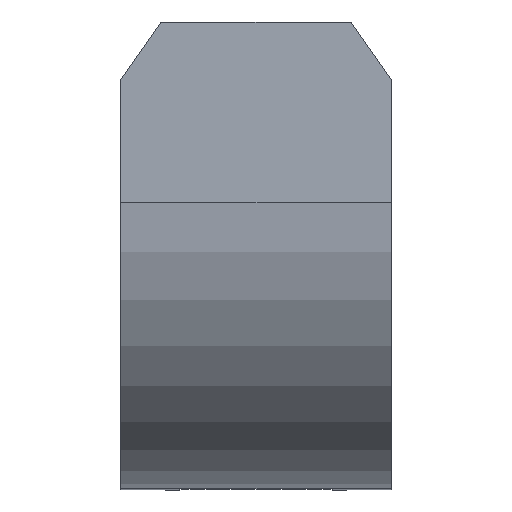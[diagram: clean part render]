
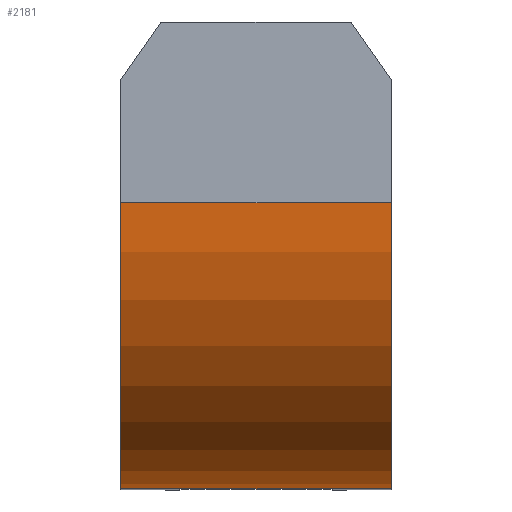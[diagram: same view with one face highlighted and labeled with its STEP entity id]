
A CAD part, top view. The second image highlights one B-rep face of the part: STEP entity #2181.
In plain terms, the highlighted cylindrical face has radius 15 mm (diameter 30 mm), a partial arc.
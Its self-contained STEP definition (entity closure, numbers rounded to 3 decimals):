
#7 = CARTESIAN_POINT ( 'NONE',  ( 0., 35.6, 14.2 ) ) ;
#65 = FACE_OUTER_BOUND ( 'NONE', #935, .T. ) ;
#191 = CARTESIAN_POINT ( 'NONE',  ( 0., 50.6, 14.2 ) ) ;
#296 = CARTESIAN_POINT ( 'NONE',  ( -15., 35.6, 14.2 ) ) ;
#314 = VECTOR ( 'NONE', #1597, 1000. ) ;
#350 = DIRECTION ( 'NONE',  ( 1., 0., 0. ) ) ;
#352 = AXIS2_PLACEMENT_3D ( 'NONE', #1848, #1185, #1347 ) ;
#416 = CARTESIAN_POINT ( 'NONE',  ( 0., 35.6, 0. ) ) ;
#476 = EDGE_CURVE ( 'NONE', #543, #1147, #1538, .T. ) ;
#481 = AXIS2_PLACEMENT_3D ( 'NONE', #7, #499, #350 ) ;
#499 = DIRECTION ( 'NONE',  ( 0., 0., 1. ) ) ;
#501 = CARTESIAN_POINT ( 'NONE',  ( 0., 50.6, 0. ) ) ;
#543 = VERTEX_POINT ( 'NONE', #191 ) ;
#567 = CYLINDRICAL_SURFACE ( 'NONE', #352, 15. ) ;
#629 = CIRCLE ( 'NONE', #481, 15. ) ;
#780 = EDGE_CURVE ( 'NONE', #1147, #1593, #2121, .T. ) ;
#935 = EDGE_LOOP ( 'NONE', ( #2051, #1189, #2165, #1961 ) ) ;
#955 = DIRECTION ( 'NONE',  ( 0., 0., 1. ) ) ;
#1044 = CARTESIAN_POINT ( 'NONE',  ( 0., 50.6, 14.2 ) ) ;
#1092 = VECTOR ( 'NONE', #1210, 1000. ) ;
#1147 = VERTEX_POINT ( 'NONE', #501 ) ;
#1185 = DIRECTION ( 'NONE',  ( 0., 0., -1. ) ) ;
#1186 = EDGE_CURVE ( 'NONE', #1437, #1593, #1348, .T. ) ;
#1189 = ORIENTED_EDGE ( 'NONE', *, *, #1186, .F. ) ;
#1210 = DIRECTION ( 'NONE',  ( 0., 0., -1. ) ) ;
#1313 = CARTESIAN_POINT ( 'NONE',  ( -15., 35.6, 0. ) ) ;
#1347 = DIRECTION ( 'NONE',  ( -1., 0., 0. ) ) ;
#1348 = LINE ( 'NONE', #1765, #314 ) ;
#1437 = VERTEX_POINT ( 'NONE', #296 ) ;
#1538 = LINE ( 'NONE', #1044, #1092 ) ;
#1593 = VERTEX_POINT ( 'NONE', #1313 ) ;
#1597 = DIRECTION ( 'NONE',  ( 0., 0., -1. ) ) ;
#1606 = EDGE_CURVE ( 'NONE', #543, #1437, #629, .T. ) ;
#1765 = CARTESIAN_POINT ( 'NONE',  ( -15., 35.6, 14.2 ) ) ;
#1848 = CARTESIAN_POINT ( 'NONE',  ( 0., 35.6, 14.2 ) ) ;
#1961 = ORIENTED_EDGE ( 'NONE', *, *, #476, .T. ) ;
#2051 = ORIENTED_EDGE ( 'NONE', *, *, #780, .T. ) ;
#2121 = CIRCLE ( 'NONE', #2169, 15. ) ;
#2129 = DIRECTION ( 'NONE',  ( 1., 0., 0. ) ) ;
#2165 = ORIENTED_EDGE ( 'NONE', *, *, #1606, .F. ) ;
#2169 = AXIS2_PLACEMENT_3D ( 'NONE', #416, #955, #2129 ) ;
#2181 = ADVANCED_FACE ( 'NONE', ( #65 ), #567, .T. ) ;
